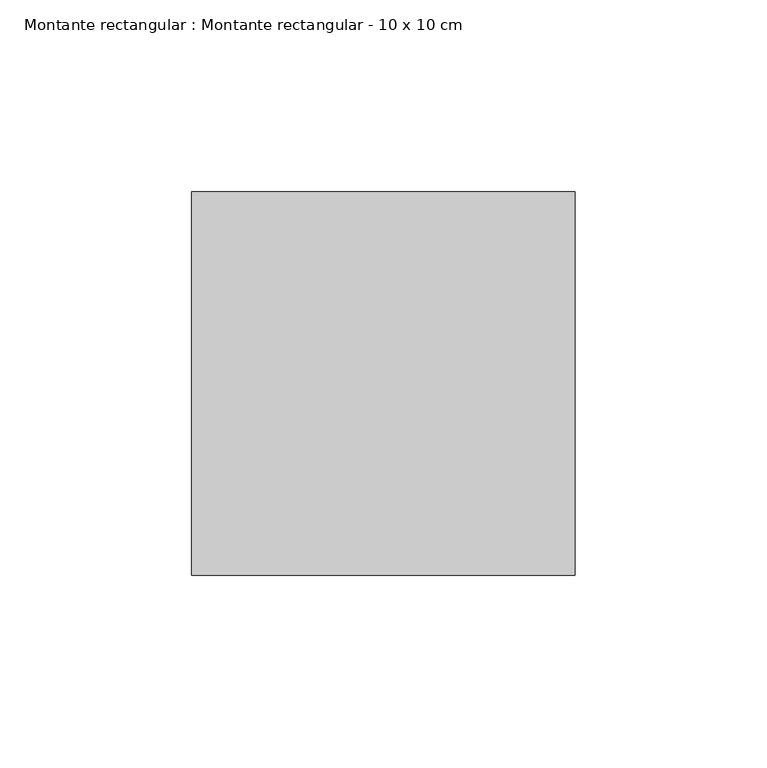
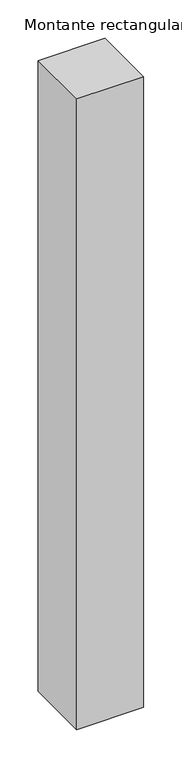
"""IFC4 building model written with IfcOpenShell, lengths in millimetres: member geometry, Montante rectangular : Montante rectangular - 10 x 10 cm."""

from ifc_helpers import new_model, si_unit, frame, origin, place, context, project, spatial, polyline, outline, extrude, source, transform, mapped, element, save


def montante_rectangular_montante_rectangular_10_x_10_cm_3b1728c8(model_context):
    return source(origin(), model_context, "Body", "SweptSolid", [
        extrude(outline(polyline([(-100.0, 50.0), (0.0, 50.0), (0.0, -50.0), (-100.0, -50.0), (-100.0, 50.0)])), frame((0.0, 0.0, -1000.0), z_axis=(0.0, 0.0, 1.0), x_axis=(1.0, 0.0, 0.0)), (0.0, 0.0, 1.0), 1000.0),
    ])


if __name__ == "__main__":
    model = new_model("IFC4")
    model_context = context("Model", 3, world=origin())
    ifc_project = project(units=[si_unit("LENGTHUNIT", "METRE", prefix="MILLI")], contexts=[model_context])
    site = spatial("IfcSite", under=ifc_project)
    building = spatial("IfcBuilding", under=site)
    placement = place(None, origin())
    montante_rectangular_montante_rectangular_10_x_10_cm_shape = montante_rectangular_montante_rectangular_10_x_10_cm_3b1728c8(model_context)
    element("IfcMember", 1, ObjectType="Montante rectangular : Montante rectangular - 10 x 10 cm", at=placement, inside=building, context=model_context, shape_type="MappedRepresentation", body=[
        mapped(montante_rectangular_montante_rectangular_10_x_10_cm_shape, transform((0.0, 0.0, 0.0), x_axis=(1.0, 0.0, 0.0), y_axis=(0.0, 1.0, 0.0), z_axis=(0.0, 0.0, 1.0))),
    ])
    save(model, "model.ifc")
